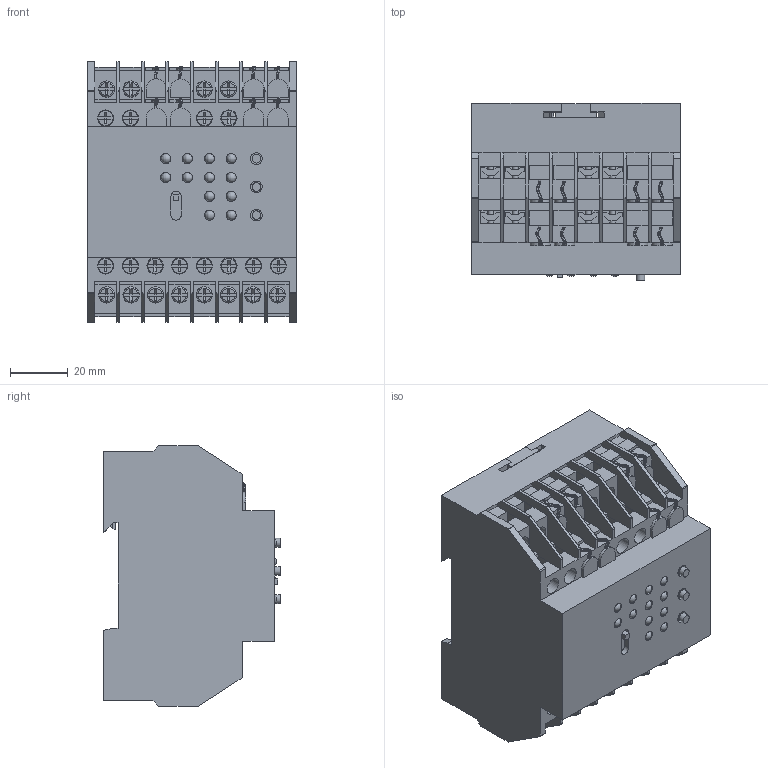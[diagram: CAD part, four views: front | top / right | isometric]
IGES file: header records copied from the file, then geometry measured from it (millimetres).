
Global section: file name: No Iges File Name specified; native system: AutoDesk Inventor R6.1; preprocessor: AutoDesk Inventor Iges Exporter R6.1; author: No Author specified; organization: No Organization specified; date: 20050811.120138; units: millimetre
Bounding box: 72 x 61 x 90 mm (x, y, z)
Surface area: 57969.9 mm2 (no closed solid volume)
Topology: 0 solids, 0 shells, 2291 faces, 11383 edges, 11201 vertices
Faces by surface type: plane 1490, revolution 690, bspline 111
